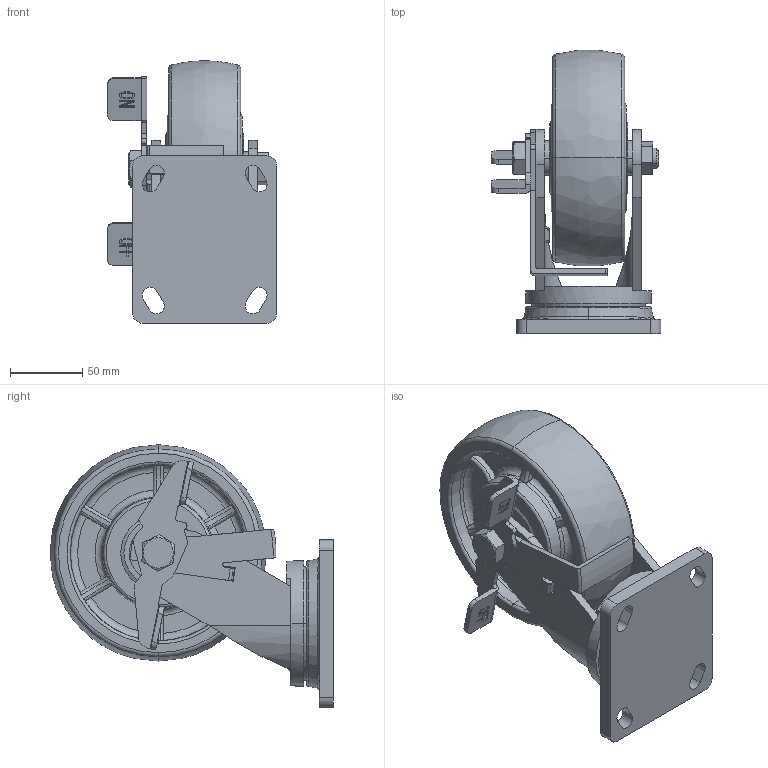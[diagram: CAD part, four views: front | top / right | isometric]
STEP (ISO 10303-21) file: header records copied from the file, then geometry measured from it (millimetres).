
FILE_DESCRIPTION((''),'2;1');
FILE_NAME('78126C-766-26_ASM','2020-07-08T',('lenovo'),(''),'PRO/ENGINEER BY PARAMETRIC TECHNOLOGY CORPORATION, 2010280','PRO/ENGINEER BY PARAMETRIC TECHNOLOGY CORPORATION, 2010280','');
FILE_SCHEMA(('CONFIG_CONTROL_DESIGN'));
Length unit declared in the file: millimetre
Products named in the file (12): 700-14; PRODUCT_8052; PRT0021; ____766C11; 780F-33-; 766-26A; 766C11; PRT0023; 706C-15_______; 78126C-766-26__________ASM_ASM; 78126C-766-26__ASM_ASM; 78126C-766-26_ASM
Assembly tree (11 placements, depth 4):
  78126C-766-26_ASM
    78126C-766-26__ASM_ASM
      78126C-766-26__________ASM_ASM
        700-14
        PRODUCT_8052
        PRT0021
        ____766C11
        780F-33-
        766-26A
        766C11
        PRT0023
        706C-15_______
Bounding box: 117.5 x 196.17 x 182 mm (x, y, z)
Volume: 921467.7 mm3; surface area: 180688.6 mm2
Topology: 9 solids, 9 shells, 511 faces, 1359 edges, 884 vertices
Faces by surface type: plane 286, cylinder 111, torus 64, bspline 28, cone 22
Entity records: 19156 total; most frequent: CARTESIAN_POINT 6204, ORIENTED_EDGE 2718, DIRECTION 2585, EDGE_CURVE 1359, AXIS2_PLACEMENT_3D 896, VERTEX_POINT 884, VECTOR 793, LINE 793
